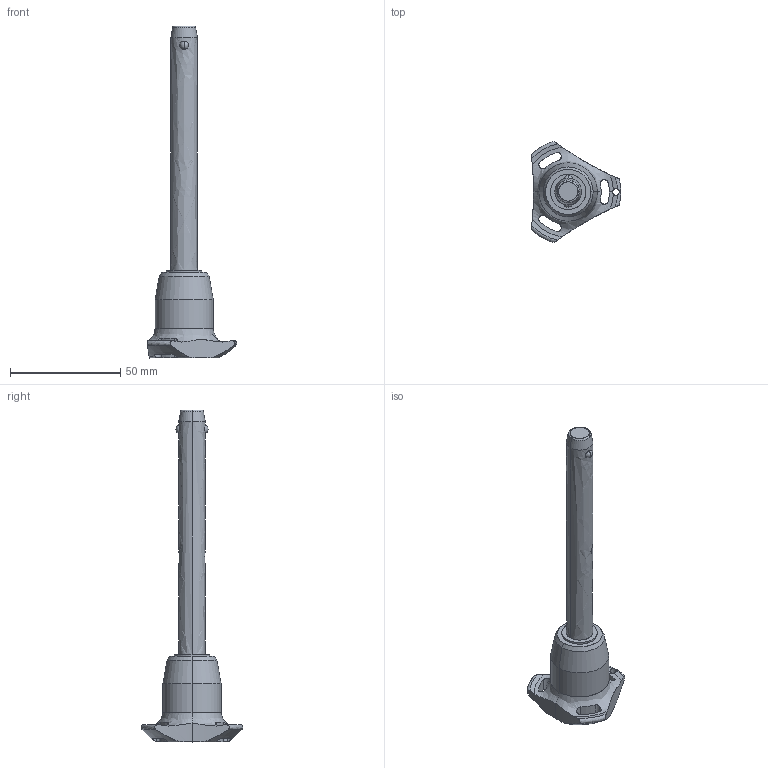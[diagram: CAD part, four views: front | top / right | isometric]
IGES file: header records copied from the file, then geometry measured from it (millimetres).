
Start section: SolidWorks IGES file using analytic representation for surfaces
Global section: file name: C:\Users\ianosborn\Desktop\QR1734_v2\QR1734_v2_20251113_IGES\QR1734.M12-100-S.igs; native system: SolidWorks 2019; preprocessor: SolidWorks 2019; author: IanOsborn; date: 251112.143322; units: millimetre
Bounding box: 40.5 x 45.88 x 150.3 mm (x, y, z)
Surface area: 10107.5 mm2 (no closed solid volume)
Topology: 0 solids, 0 shells, 65 faces, 1363 edges, 1359 vertices
Faces by surface type: revolution 50, bspline 15
